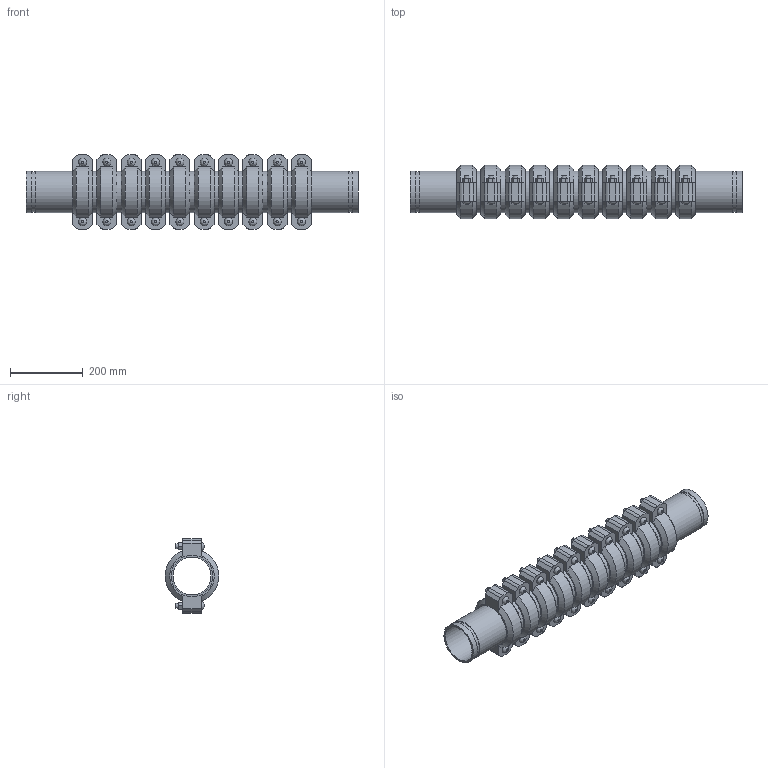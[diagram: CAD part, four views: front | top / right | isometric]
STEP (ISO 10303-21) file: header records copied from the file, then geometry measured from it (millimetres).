
FILE_DESCRIPTION(/* description */ ('VIC EXPANSION JOINT 10 COUPLINGS EXPANDED STYLE 155 (OGS)','CAx-IF Rec.Pracs.---Representation and Presentation of Product Manufacturing Information (PMI)---4.0---2014-10-13'),/* implementation_level */ '2;1');
FILE_NAME(/* name */ 'C:\Users\kkamble\AppData\Roaming\Autodesk\ApplicationPlugins\Victaulic.Temp\A992\Victaulic_IPS_Expansion Joint_Expanded_10 Couplings_Style 155 (OGS)_4 (100).stp',/* time_stamp */ '2021-06-26T23:49:49+02:00',/* author */ ('kkamble'),/* organization */ ('Victaulic'),/* preprocessor_version */ 'ST-DEVELOPER v17.2',/* originating_system */ 'Autodesk Inventor 2019',/* authorisation */ '');
FILE_SCHEMA (('AP242_MANAGED_MODEL_BASED_3D_ENGINEERING_MIM_LF { 1 0 10303 442 1 1 4 }'));
Length unit declared in the file: inch
Products named in the file (4): 155-04.0; Nipple-04.0; Nipple-04.0_1; 075-04.0
Assembly tree (21 placements, depth 2):
  155-04.0
    Nipple-04.0  x2
    Nipple-04.0_1  x9
    075-04.0  x10
Bounding box: 911.61 x 147.32 x 203.96 mm (x, y, z)
Volume: 6231365.3 mm3; surface area: 1451066.8 mm2
Topology: 21 solids, 41 shells, 702 faces, 1660 edges, 1164 vertices
Faces by surface type: plane 426, cylinder 216, cone 40, bspline 20
Full cylindrical faces by diameter (mm): 12.7 x40, 14.605 x20, 103.988 x11, 107.95 x10, 110.084 x22, 114.3 x53
Entity records: 2881 total; most frequent: CARTESIAN_POINT 505, DIRECTION 485, ORIENTED_EDGE 386, AXIS2_PLACEMENT_3D 196, EDGE_CURVE 193, VERTEX_POINT 138, EDGE_LOOP 107, LINE 93
